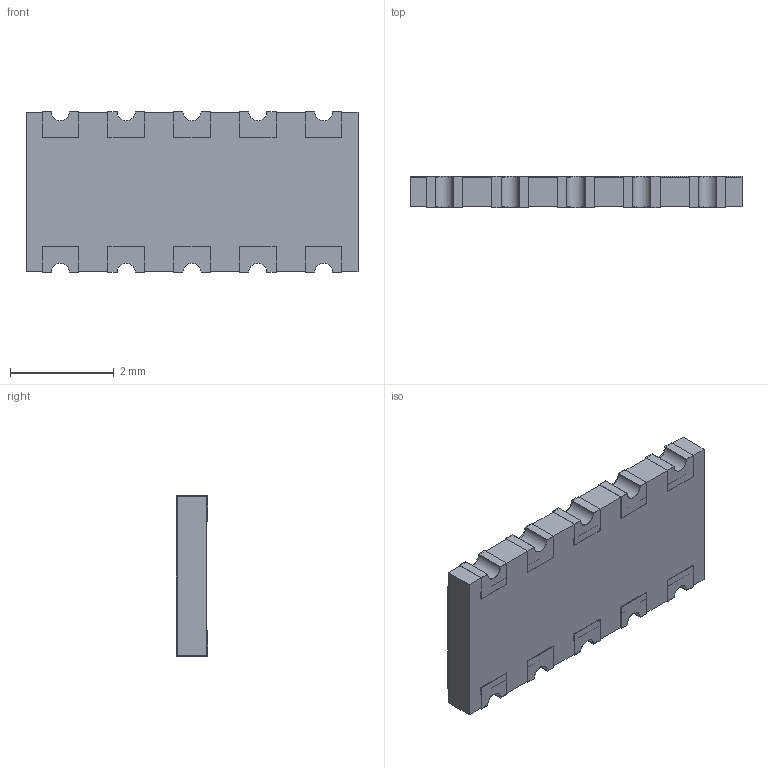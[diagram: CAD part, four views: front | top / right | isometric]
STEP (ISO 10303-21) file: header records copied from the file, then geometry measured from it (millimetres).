
FILE_DESCRIPTION(/* description */ (''),/* implementation_level */ '2;1');
FILE_NAME(/* name */ 'C:\Users\mulla\Documents\Work\SEI Models\Inventor Files\RACF\RACF648N_stp.stp',/* time_stamp */ '2019-08-07T17:55:05-04:00',/* author */ ('mulla'),/* organization */ (''),/* preprocessor_version */ 'ST-DEVELOPER v16.1',/* originating_system */ 'Autodesk Inventor 2016',/* authorisation */ '');
FILE_SCHEMA (('AUTOMOTIVE_DESIGN { 1 0 10303 214 3 1 1 }'));
Length unit declared in the file: millimetre
Products named in the file (1): RACF648N
Bounding box: 6.4 x 0.6 x 3.1 mm (x, y, z)
Surface area: 101.2 mm2
Topology: 12 solids, 12 shells, 132 faces, 324 edges, 216 vertices
Faces by surface type: plane 112, cylinder 20
Entity records: 4014 total; most frequent: CARTESIAN_POINT 673, ORIENTED_EDGE 648, DIRECTION 630, EDGE_CURVE 324, LINE 284, VECTOR 284, VERTEX_POINT 216, AXIS2_PLACEMENT_3D 173
